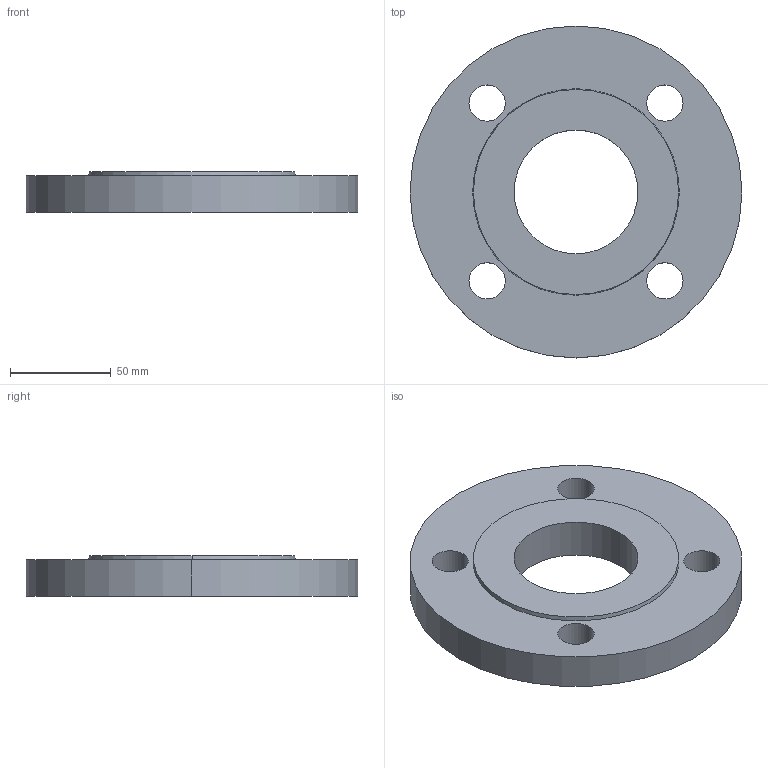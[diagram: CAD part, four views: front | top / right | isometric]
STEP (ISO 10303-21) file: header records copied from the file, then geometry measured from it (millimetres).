
FILE_DESCRIPTION (( 'STEP AP214' ), '1' );
FILE_NAME ('PN40 DN50 Type 01 - Type B Face.STEP', '2018-12-30T04:46:06', ( '' ), ( '' ), 'SwSTEP 2.0', 'SolidWorks 2019', '' );
FILE_SCHEMA (( 'AUTOMOTIVE_DESIGN' ));
Length unit declared in the file: millimetre
Products named in the file (1): PN40 DN50 Type 01 - Type B Face
Bounding box: 165 x 165 x 20 mm (x, y, z)
Volume: 323607 mm3; surface area: 52593.9 mm2
Topology: 1 solids, 1 shells, 17 faces, 42 edges, 28 vertices
Faces by surface type: cylinder 12, plane 3, cone 2
Entity records: 578 total; most frequent: DIRECTION 106, CARTESIAN_POINT 88, ORIENTED_EDGE 84, AXIS2_PLACEMENT_3D 46, EDGE_CURVE 42, CIRCLE 28, EDGE_LOOP 28, VERTEX_POINT 28
